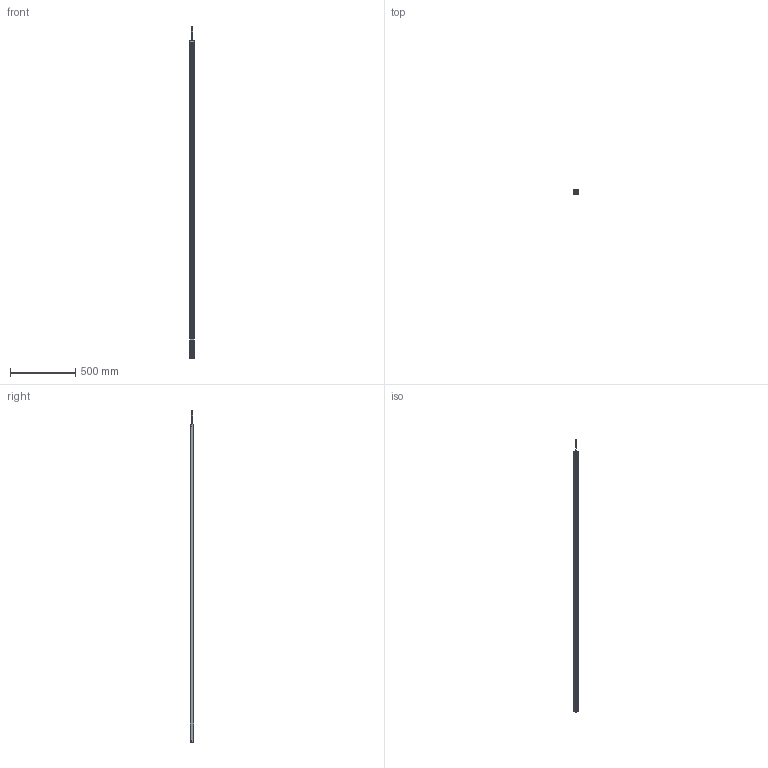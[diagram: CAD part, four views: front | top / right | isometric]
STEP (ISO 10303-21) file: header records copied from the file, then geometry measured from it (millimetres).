
FILE_DESCRIPTION((''),'2;1');
FILE_NAME('SMT1-CGQ_ASM','2025-08-08T08:54:49',('Administrator'),(''),'CREO PARAMETRIC BY PTC INC, 2016510','CREO PARAMETRIC BY PTC INC, 2016510','');
FILE_SCHEMA(('CONFIG_CONTROL_DESIGN'));
Length unit declared in the file: millimetre
Products named in the file (7): SMT1-XINGCAI-V1; SMT1-SDG-V1; SMT1-XDG-V1; M12-CHATOU; ST3X18; CT4-LVGUANGBAN; SMT1-CGQ_ASM
Assembly tree (13 placements, depth 2):
  SMT1-CGQ_ASM
    SMT1-XINGCAI-V1
    SMT1-SDG-V1
    SMT1-XDG-V1
    M12-CHATOU
    ST3X18  x8
    CT4-LVGUANGBAN
Bounding box: 33 x 28.02 x 2539.5 mm (x, y, z)
Volume: 1873292.7 mm3; surface area: 595119.6 mm2
Topology: 13 solids, 13 shells, 712 faces, 1868 edges, 1200 vertices
Faces by surface type: plane 382, cylinder 184, extrusion 86, sphere 32, cone 20, bspline 8
Entity records: 18128 total; most frequent: CARTESIAN_POINT 4347, ORIENTED_EDGE 2916, DIRECTION 2580, EDGE_CURVE 1458, VECTOR 1036, VERTEX_POINT 955, LINE 950, AXIS2_PLACEMENT_3D 772
